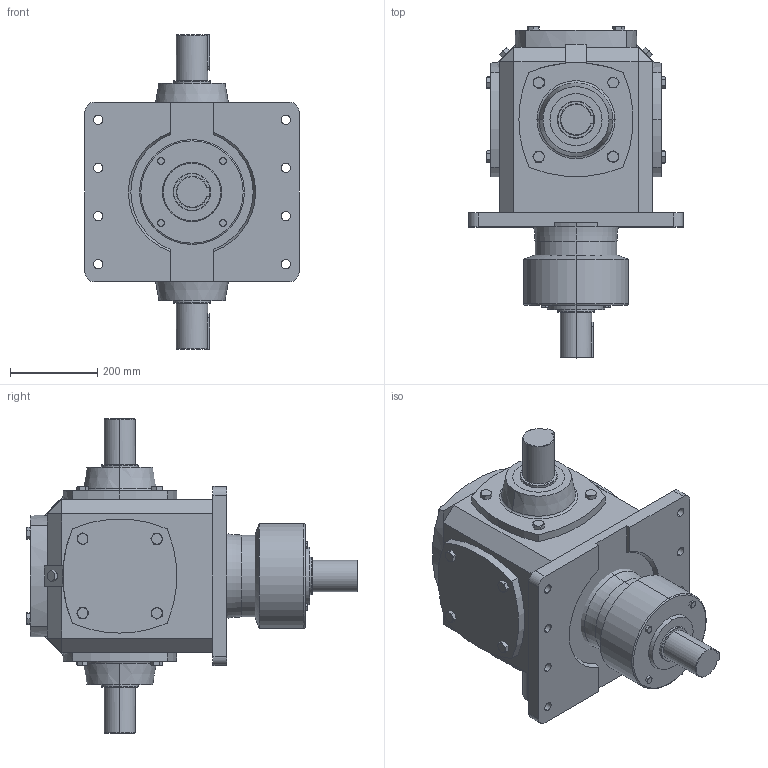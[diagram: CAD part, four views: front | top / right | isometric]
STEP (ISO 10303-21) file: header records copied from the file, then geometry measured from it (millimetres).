
FILE_DESCRIPTION (( 'STEP AP203' ), '1' );
FILE_NAME ('TC20-1-WX1-U5.step', '2018-07-14T01:51:16', ( 'IT Division' ), ( 'IT' ), 'SwSTEP 2.0', 'SolidWorks 2016', '' );
FILE_SCHEMA (( 'CONFIG_CONTROL_DESIGN' ));
Length unit declared in the file: millimetre
Products named in the file (1): TC20-1-WX1-U5
Bounding box: 490 x 759.6 x 720 mm (x, y, z)
Volume: 69849591.5 mm3; surface area: 1610108.6 mm2
Topology: 2 solids, 2 shells, 537 faces, 1273 edges, 778 vertices
Faces by surface type: plane 257, cone 201, cylinder 71, torus 8
Entity records: 16791 total; most frequent: CARTESIAN_POINT 4736, ORIENTED_EDGE 2546, DIRECTION 2381, EDGE_CURVE 1273, AXIS2_PLACEMENT_3D 907, VERTEX_POINT 778, EDGE_LOOP 591, LINE 567
